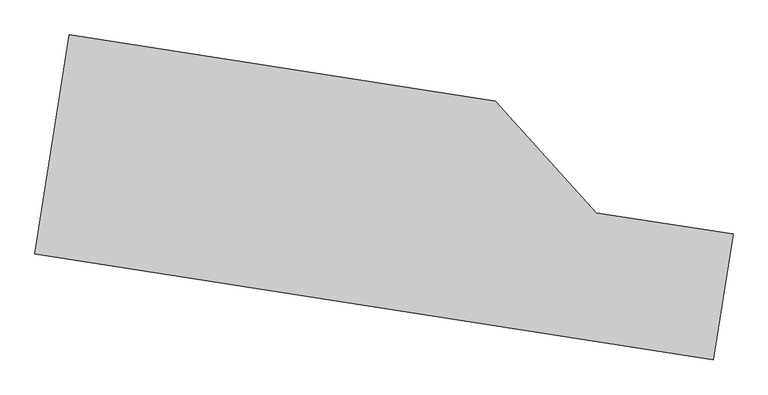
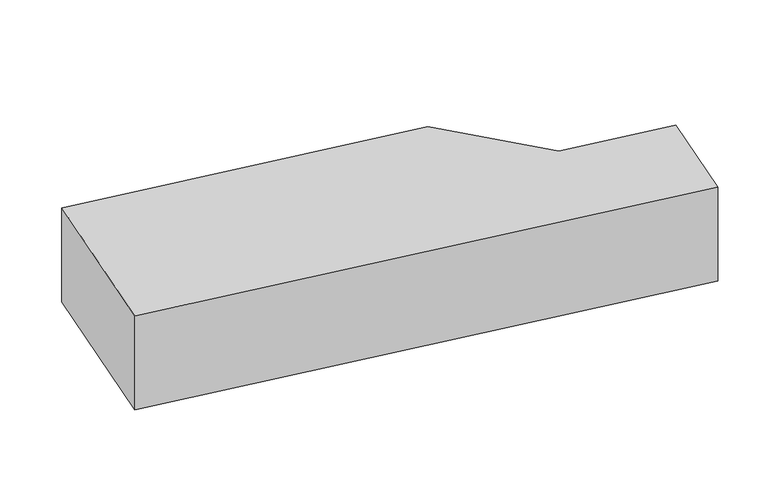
"""IFC4 building model written with IfcOpenShell, lengths in millimetres: furniture geometry, MUEBLE BAÑO 1 : MUEBLE BAÑO 1."""

from ifc_helpers import new_model, si_unit, origin, origin_with_axes, place, context, project, spatial, polyline, outline, extrude, source, transform, mapped, element, save


def furniture_f0fd126e(model_context):
    return source(origin(), model_context, "Body", "SweptSolid", [
        extrude(outline(polyline([(-37553.8242566, -73952.2419307), (-37486.0599097, -73517.4914353), (-36642.1560109, -73649.0303229), (-36441.7817031, -73870.4731373), (-36171.2304565, -73912.6438276), (-36210.049998, -74161.6953666), (-37553.8242566, -73952.2419307)])), origin_with_axes(), (0.0, 0.0, 1.0), 250.0),
    ])


if __name__ == "__main__":
    model = new_model("IFC4")
    model_context = context("Model", 3, world=origin())
    ifc_project = project(units=[si_unit("LENGTHUNIT", "METRE", prefix="MILLI")], contexts=[model_context])
    site = spatial("IfcSite", under=ifc_project)
    building = spatial("IfcBuilding", under=site)
    placement = place(None, origin())
    furniture_shape = furniture_f0fd126e(model_context)
    element("IfcFurniture", 1, ObjectType="MUEBLE BAÑO 1 : MUEBLE BAÑO 1", at=placement, inside=building, context=model_context, shape_type="MappedRepresentation", body=[
        mapped(furniture_shape, transform((0.0, 0.0, 0.0), x_axis=(1.0, 0.0, 0.0), y_axis=(0.0, 1.0, 0.0), z_axis=(0.0, 0.0, 1.0))),
    ])
    save(model, "model.ifc")
